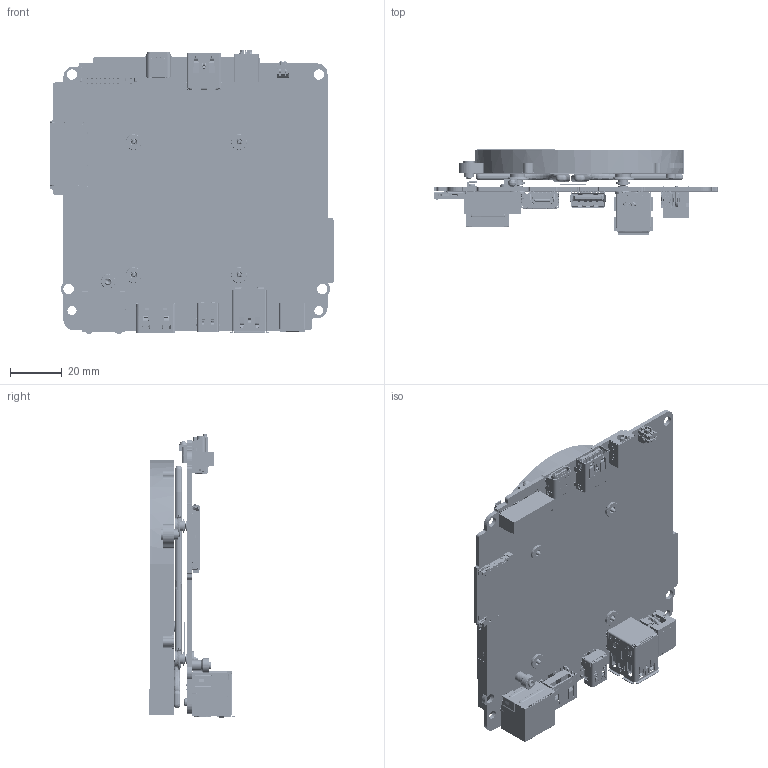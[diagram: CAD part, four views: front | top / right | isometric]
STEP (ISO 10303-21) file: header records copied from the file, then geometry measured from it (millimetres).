
FILE_DESCRIPTION (( 'STEP AP203' ), '1' );
FILE_NAME ('in_top_system_asm_20190416.STEP', '2019-04-23T17:29:21', ( '' ), ( '' ), 'SwSTEP 2.0', 'SolidWorks 2018', '' );
FILE_SCHEMA (( 'CONFIG_CONTROL_DESIGN' ));
Length unit declared in the file: millimetre
Products named in the file (44): HOLE_C212D157; CY_MSBR-18; ISLAY-MINIPC-HP1-0816; CY_MSBR-25; HOLE_C212D138; MX_HOLE_C236D157; CY_SCW_SET-0421_ASM_1_1_1; A_DC_PWR_JACK_2P_5HD_RA_SIN; CY_THM_SCREW25_1012_1_4_1; CABLE_CLIP_MWS_43; CY_MSBR-3; CPU-TIM; A_USB_24P_10H_RA_LOTE; CY_CANYON_PLACEMENT_ASM; CY_MSBR-19; IN_MB_ASSY; CY_SCW_0802; IN_ME_MB_ASSY; 20180516; A_HDMI_19P_20_4HD_RA; CY_MSBR-21; A_LAN_JACK_12P_4H_RA_CZ_F69; SMT_NUT_CT177B67D51; A_USB_9P_4HD_RA_TO; A_AUDIO_JACK_6P_4H_LOT; CY_MSBR-23; CY_ORING_Z_1_4_1; CY_MSBR-24; TP_SW_4P_4HOLD_DIPTRON; ISLAY-MINIPC-HP2-0816; CY_THERMAL_ASSY; SMT_NUT_CT264B177D161_F83; in_top_system_asm_20190416; CY_MSBR-20; A_DISPLAY_20P_24_6HD_ACO; IN_MB_ME; CY_THM_SPRING_AF0_1_4_1; CY_MSBR-26; MINI_PCI_67P_20_4H_LOTES; A_SD_SCK_11P_4H_TAI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
Assembly tree (52 placements, depth 7):
  in_top_system_asm_20190416
    CY_CANYON_PLACEMENT_ASM
      IN_MB_ASSY
        IN_ME_MB_ASSY
          IN_MB_ME
          A_HDMI_19P_20_4HD_RA
          A_DC_PWR_JACK_2P_5HD_RA_SIN
          TP_SW_4P_4HOLD_DIPTRON
          A_AUDIO_JACK_6P_4H_LOT
          A_IR_4P_67_209X150
          A_USB_9P_4HD_RA_TO
          MX_HOLE_C236D157  x2
          MINI_PCI_67P_20_4H_LOTES
          SMT_NUT_CT264B177D161_F83  x4
          A_LAN_JACK_12P_4H_RA_CZ_F69
          A_DISPLAY_20P_24_6HD_ACO
          HOLE_C212D157  x2
          HOLE_C212D138  x2
          SMT_NUT_CT177B67D51
          A_SD_SCK_11P_4H_TAI
          A_USB_2X9P_4HD_RA_TCONN
          CABLE_CLIP_MWS_43
          A_USB_24P_10H_RA_LOTE
      CY_THERMAL_ASSY
        20180516
          CY_MSBR-26
          CY_MSBR-25
          CY_MSBR-24
          CY_MSBR-23
          CY_MSBR-21
          CY_MSBR-22
          CY_MSBR-20
          CY_MSBR-19
          CY_MSBR-18
          CY_MSBR-17
          CY_MSBR-3
          CY_SCW_0802
            CY_SCW_SET-0421_ASM_1_1_1  x4
              CY_THM_SCREW25_1012_1_4_1
              CY_ORING_Z_1_4_1
              CY_THM_SPRING_AF0_1_4_1
          ISLAY-MINIPC-HP1-0816
          ISLAY-MINIPC-HP2-0816
          CPU-TIM
Bounding box: 109.05 x 32.81 x 109.25 mm (x, y, z)
Volume: 41211.8 mm3; surface area: 103707.5 mm2
Topology: 75 solids, 85 shells, 13675 faces, 38878 edges, 25408 vertices
Faces by surface type: plane 9227, cylinder 3615, bspline 536, cone 262, torus 35
Entity records: 475066 total; most frequent: CARTESIAN_POINT 132514, ORIENTED_EDGE 75824, DIRECTION 62131, EDGE_CURVE 37916, VECTOR 27441, LINE 27441, VERTEX_POINT 24787, AXIS2_PLACEMENT_3D 17345
